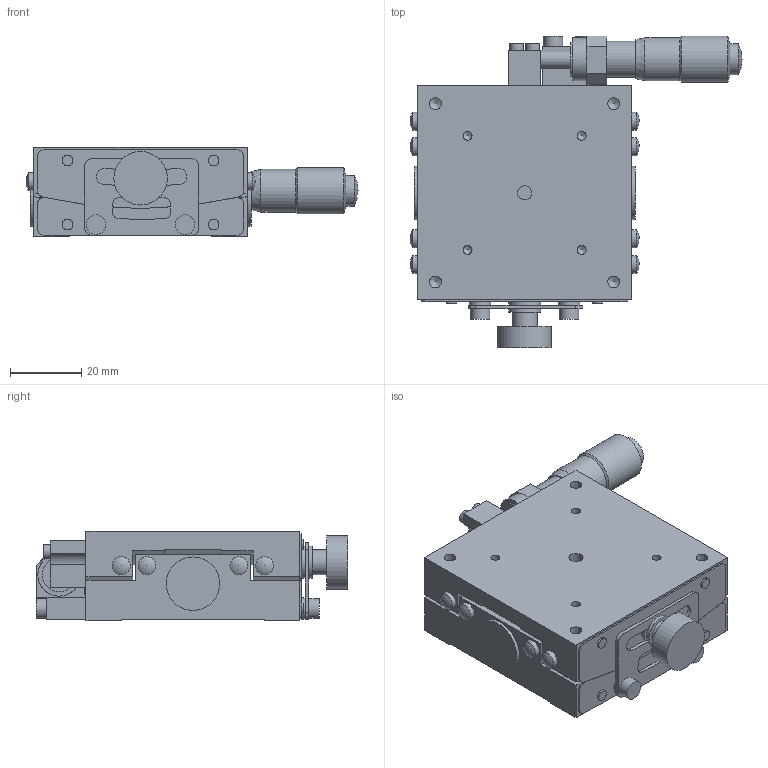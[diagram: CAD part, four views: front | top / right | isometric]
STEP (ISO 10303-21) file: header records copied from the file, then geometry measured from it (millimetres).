
FILE_DESCRIPTION( ( 'STEP AP203' ), '1' );
FILE_NAME( 'C:/Documents and Settings/09371/デスクトップ/CAD-ORG-STEP-DATA-3D簡素化依頼/3D_DATA_STEP/B58-60WLCR.step', '2007-02-09T01:52:50', ( ' ' ), ( ' ' ), 'XStep 1.0', ' ', ' ' );
FILE_SCHEMA( ( 'CONFIG_CONTROL_DESIGN' ) );
Length unit declared in the file: millimetre
Products named in the file (3): 1; 2; 3
Bounding box: 93.15 x 87.5 x 25 mm (x, y, z)
Volume: 92210.4 mm3; surface area: 31439.4 mm2
Topology: 3 solids, 3 shells, 214 faces, 541 edges, 355 vertices
Faces by surface type: plane 96, cylinder 96, cone 12, sphere 10
Full cylindrical faces by diameter (mm): 2.5 x8, 3 x4, 3.3 x8, 3.8 x2, 4 x3, 4.5 x4, 5 x10, 5.5 x4, 6 x2, 7 x1, 8 x4, 8.6 x1, 9 x2, 9.5 x1, 10 x1, 10.5 x1, 12 x2, 13 x1, 15 x3
Entity records: 5981 total; most frequent: CARTESIAN_POINT 1174, DIRECTION 1027, ORIENTED_EDGE 802, AXIS2_PLACEMENT_3D 413, EDGE_CURVE 401, EDGE_LOOP 336, VERTEX_POINT 308, FACE_OUTER_BOUND 276
